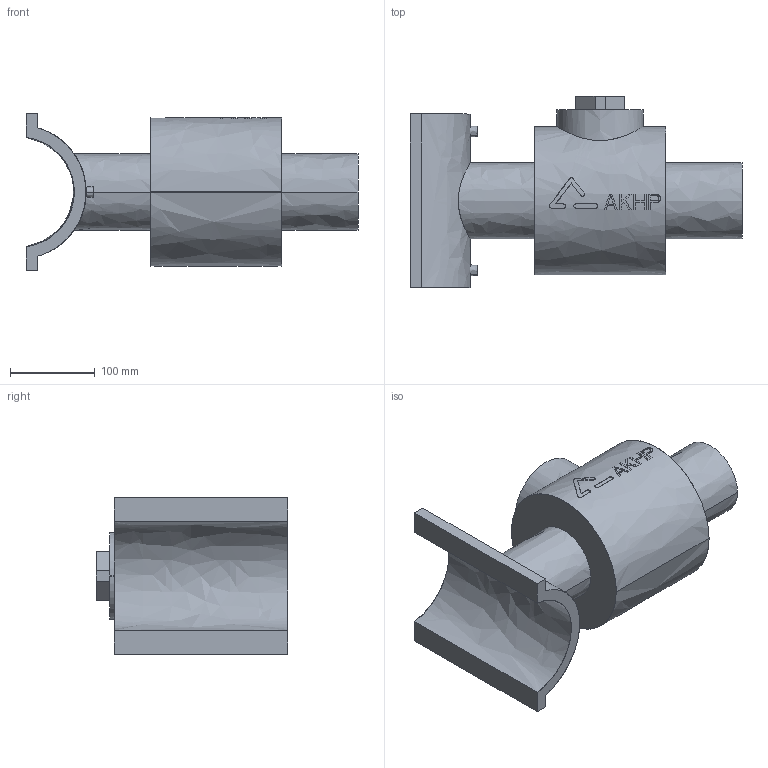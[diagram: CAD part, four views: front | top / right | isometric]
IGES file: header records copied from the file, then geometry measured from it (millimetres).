
Start section:  PTC IGES file: akhp_d125_d90.igs
Global section: file name: akhp_d125_d90.igs; native system: Pro/ENGINEER by Parametric Technology Corporation; preprocessor: 2006140; author: muellerc; organization: Unknown; date: 20060811.093010; units: millimetre
Bounding box: 392 x 226 x 185 mm (x, y, z)
Surface area: 294215.2 mm2 (no closed solid volume)
Topology: 0 solids, 0 shells, 125 faces, 686 edges, 692 vertices
Faces by surface type: bspline 125
